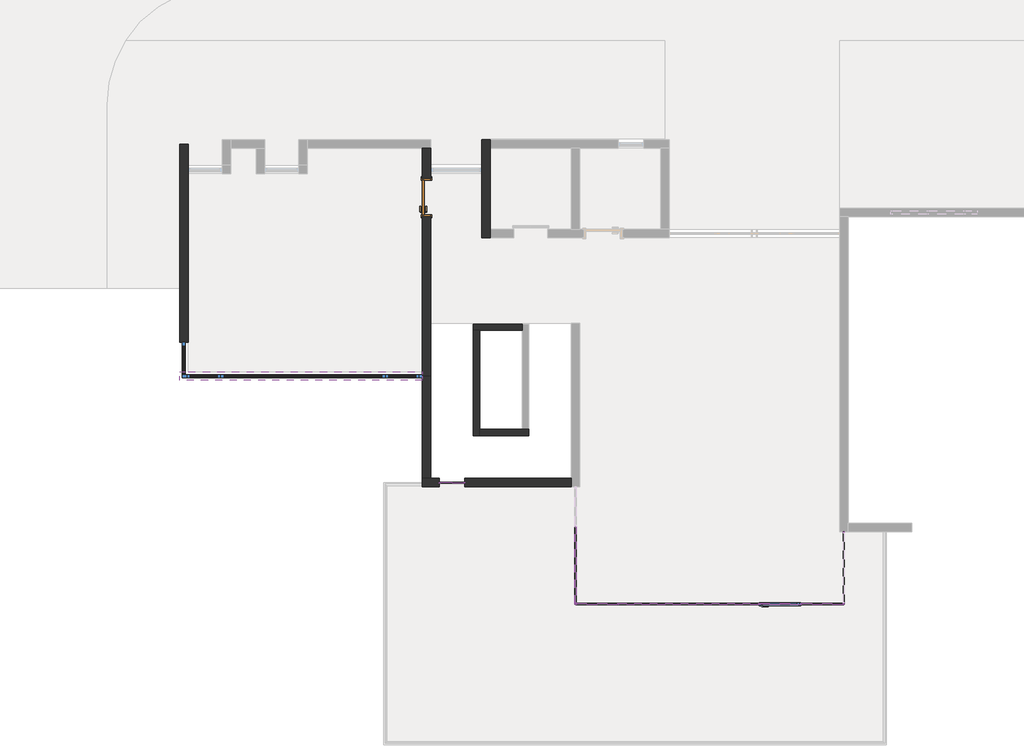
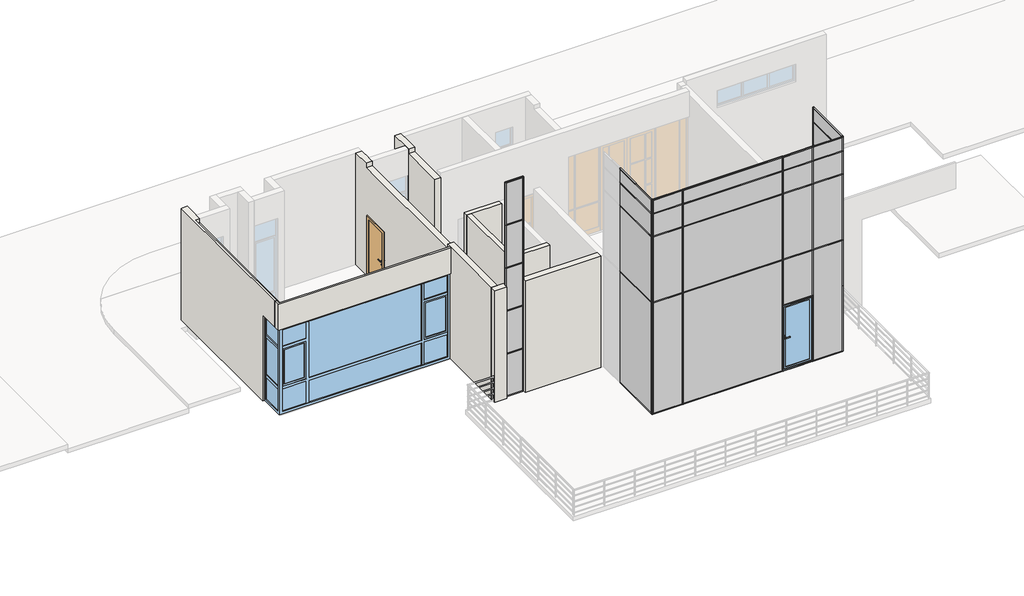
# One storey, part 1 of 4: 83 members, 29 plates, 9 walls, 2 windows, 1 door.
"""IFC4 building model written with IfcOpenShell, lengths in millimetres."""

from ifc_helpers import new_model, si_unit, origin, place, context, project, spatial, faceted_brep, transform, mapped, element, save
from components import m0921_482f5408, member_050b8304, member_364816fe, member_4fba57e3, member_90c32fe1, member_0448d2ee, member_3c3f359b, member_e371c03a, member_484f0d65, member_caf78da9, member_ed4e6baa, member_e58bfd49, member_f6acb2cb, member_d9064eb3, member_c456a22c, member_f9daae58, member_d54f5d39, member_ded72f51, member_83212f8f, member_9556eaea, member_e4ffa79e, member_633aa1a8, member_63391c1b, plate_989e9b30, plate_be0c214f, plate_3ad07298, plate_a678f7a2, plate_47d68db4, plate_28cd468d, plate_8697d8f9, plate_5c85ba46, plate_9a42f018, plate_45a283f2, plate_9503e3ad, plate_2229b9dc, plate_5c3fc420, plate_697b7dca, plate_b5b8d5f7, plate_45b696d9, plate_3115bb5f, plate_e9dabd4d, plate_3a9f7994, plate_476f0c40, plate_1dd8f47d, plate_72c2615a, window_97242802, zjc_08_56_30_6e2e087f

model = new_model("IFC4")

# Units and contexts
model_context = context("Model", 3, world=origin())
ifc_project = project(units=[si_unit("LENGTHUNIT", "METRE", prefix="MILLI")], contexts=[model_context])

# Site, building, storey
site = spatial("IfcSite", under=ifc_project)
building = spatial("IfcBuilding", under=site)
storey = spatial("IfcBuildingStorey", under=building, Name="首层", Elevation=0.0)

# Door
placement = place(None, origin())
m0921_shape = m0921_482f5408(model_context)
element("IfcDoor", 1, ObjectType="单嵌板木门 1 : M0921", at=placement, inside=storey, context=model_context, shape_type="MappedRepresentation", body=[
    mapped(m0921_shape, transform((-2290.9475695, -271.4172231, 0.0), x_axis=(0.0, 1.0, 0.0), y_axis=(-1.0, 0.0, 0.0), z_axis=(0.0, 0.0, 1.0))),
])

# Members
member_shape = member_050b8304(model_context)
element("IfcMember", 2, ObjectType="矩形竖梃 : 30mm 正方形", at=placement, inside=storey, context=model_context, shape_type="MappedRepresentation", body=[
    mapped(member_shape, transform((2209.0524305, -9821.4172231, 3900.0), x_axis=(1.0, 0.0, 0.0), y_axis=(0.0, -1.0, 0.0), z_axis=(0.0, 0.0, -1.0))),
])
element("IfcMember", 3, ObjectType="矩形竖梃 : 30mm 正方形", at=placement, inside=storey, context=model_context, shape_type="MappedRepresentation", body=[
    mapped(member_shape, transform((5509.0524305, -9821.4172231, 3900.0), x_axis=(1.0, 0.0, 0.0), y_axis=(0.0, -1.0, 0.0), z_axis=(0.0, 0.0, -1.0))),
])
element("IfcMember", 4, ObjectType="矩形竖梃 : 30mm 正方形", at=placement, inside=storey, context=model_context, shape_type="MappedRepresentation", body=[
    mapped(member_shape, transform((6509.0524305, -9821.4172231, 3900.0), x_axis=(1.0, 0.0, 0.0), y_axis=(0.0, -1.0, 0.0), z_axis=(0.0, 0.0, -1.0))),
])
member_2_shape = member_364816fe(model_context)
element("IfcMember", 5, ObjectType="矩形竖梃 : 30mm 正方形", at=placement, inside=storey, context=model_context, shape_type="MappedRepresentation", body=[
    mapped(member_2_shape, transform((7509.0524305, -9821.4172231, 3900.0), x_axis=(1.0, 0.0, 0.0), y_axis=(0.0, -1.0, 0.0), z_axis=(0.0, 0.0, -1.0))),
])
element("IfcMember", 6, ObjectType="矩形竖梃 : 30mm 正方形", at=placement, inside=storey, context=model_context, shape_type="MappedRepresentation", body=[
    mapped(member_2_shape, transform((1209.0524305, -9821.4172231, 3900.0), x_axis=(0.0, -1.0, 0.0), y_axis=(-1.0, 0.0, 0.0), z_axis=(0.0, 0.0, -1.0))),
])
element("IfcMember", 7, ObjectType="矩形竖梃 : 30mm 正方形", at=placement, inside=storey, context=model_context, shape_type="MappedRepresentation", body=[
    mapped(member_2_shape, transform((7509.0524305, -8121.4172231, 3900.0), x_axis=(0.0, 1.0, 0.0), y_axis=(1.0, 0.0, 0.0), z_axis=(0.0, 0.0, -1.0))),
])
element("IfcMember", 8, ObjectType="矩形竖梃 : 30mm 正方形", at=placement, inside=storey, context=model_context, shape_type="MappedRepresentation", body=[
    mapped(member_2_shape, transform((1209.0524305, -9821.4172231, 6200.0), x_axis=(-1.0, 0.0, 0.0), y_axis=(0.0, -1.0, 0.0), z_axis=(0.0, 0.0, 1.0))),
])
element("IfcMember", 9, ObjectType="矩形竖梃 : 30mm 正方形", at=placement, inside=storey, context=model_context, shape_type="MappedRepresentation", body=[
    mapped(member_2_shape, transform((7509.0524305, -9821.4172231, 6200.0), x_axis=(0.0, -1.0, 0.0), y_axis=(1.0, 0.0, 0.0), z_axis=(0.0, 0.0, 1.0))),
])
member_3_shape = member_4fba57e3(model_context)
element("IfcMember", 10, ObjectType="矩形竖梃 : 30mm 正方形", at=placement, inside=storey, context=model_context, shape_type="MappedRepresentation", body=[
    mapped(member_3_shape, transform((-1420.9475695, -6971.4172231, 7500.0), x_axis=(0.0, 0.0, 1.0), y_axis=(0.0, -1.0, 0.0), z_axis=(1.0, 0.0, 0.0))),
])
element("IfcMember", 11, ObjectType="矩形竖梃 : 30mm 正方形", at=placement, inside=storey, context=model_context, shape_type="MappedRepresentation", body=[
    mapped(member_3_shape, transform((-1960.9475695, -6971.4172231, 0.0), x_axis=(0.0, 0.0, -1.0), y_axis=(0.0, -1.0, 0.0), z_axis=(-1.0, 0.0, 0.0))),
])
member_4_shape = member_90c32fe1(model_context)
element("IfcMember", 12, ObjectType="矩形竖梃 : 30mm 正方形", at=placement, inside=storey, context=model_context, shape_type="MappedRepresentation", body=[
    mapped(member_4_shape, transform((-1420.9475695, -6971.4172231, 1500.0), x_axis=(0.0, 0.0, 1.0), y_axis=(0.0, -1.0, 0.0), z_axis=(1.0, 0.0, 0.0))),
])
element("IfcMember", 13, ObjectType="矩形竖梃 : 30mm 正方形", at=placement, inside=storey, context=model_context, shape_type="MappedRepresentation", body=[
    mapped(member_4_shape, transform((-1420.9475695, -6971.4172231, 3000.0), x_axis=(0.0, 0.0, 1.0), y_axis=(0.0, -1.0, 0.0), z_axis=(1.0, 0.0, 0.0))),
])
element("IfcMember", 14, ObjectType="矩形竖梃 : 30mm 正方形", at=placement, inside=storey, context=model_context, shape_type="MappedRepresentation", body=[
    mapped(member_4_shape, transform((-1420.9475695, -6971.4172231, 4500.0), x_axis=(0.0, 0.0, 1.0), y_axis=(0.0, -1.0, 0.0), z_axis=(1.0, 0.0, 0.0))),
])
element("IfcMember", 15, ObjectType="矩形竖梃 : 30mm 正方形", at=placement, inside=storey, context=model_context, shape_type="MappedRepresentation", body=[
    mapped(member_4_shape, transform((-1420.9475695, -6971.4172231, 6000.0), x_axis=(0.0, 0.0, 1.0), y_axis=(0.0, -1.0, 0.0), z_axis=(1.0, 0.0, 0.0))),
])
member_5_shape = member_0448d2ee(model_context)
element("IfcMember", 16, ObjectType="矩形竖梃 : 30mm 正方形", at=placement, inside=storey, context=model_context, shape_type="MappedRepresentation", body=[
    mapped(member_5_shape, transform((-1390.9475695, -6971.4172231, 0.0), x_axis=(1.0, 0.0, 0.0), y_axis=(0.0, -1.0, 0.0), z_axis=(0.0, 0.0, -1.0))),
])
element("IfcMember", 17, ObjectType="矩形竖梃 : 30mm 正方形", at=placement, inside=storey, context=model_context, shape_type="MappedRepresentation", body=[
    mapped(member_5_shape, transform((-1990.9475695, -6971.4172231, 1500.0), x_axis=(-1.0, 0.0, 0.0), y_axis=(0.0, -1.0, 0.0), z_axis=(0.0, 0.0, 1.0))),
])
element("IfcMember", 18, ObjectType="矩形竖梃 : 30mm 正方形", at=placement, inside=storey, context=model_context, shape_type="MappedRepresentation", body=[
    mapped(member_5_shape, transform((-1390.9475695, -6971.4172231, 1500.0), x_axis=(1.0, 0.0, 0.0), y_axis=(0.0, -1.0, 0.0), z_axis=(0.0, 0.0, -1.0))),
])
element("IfcMember", 19, ObjectType="矩形竖梃 : 30mm 正方形", at=placement, inside=storey, context=model_context, shape_type="MappedRepresentation", body=[
    mapped(member_5_shape, transform((-1390.9475695, -6971.4172231, 3000.0), x_axis=(1.0, 0.0, 0.0), y_axis=(0.0, -1.0, 0.0), z_axis=(0.0, 0.0, -1.0))),
])
element("IfcMember", 20, ObjectType="矩形竖梃 : 30mm 正方形", at=placement, inside=storey, context=model_context, shape_type="MappedRepresentation", body=[
    mapped(member_5_shape, transform((-1390.9475695, -6971.4172231, 4500.0), x_axis=(1.0, 0.0, 0.0), y_axis=(0.0, -1.0, 0.0), z_axis=(0.0, 0.0, -1.0))),
])
element("IfcMember", 21, ObjectType="矩形竖梃 : 30mm 正方形", at=placement, inside=storey, context=model_context, shape_type="MappedRepresentation", body=[
    mapped(member_5_shape, transform((-1990.9475695, -6971.4172231, 3000.0), x_axis=(-1.0, 0.0, 0.0), y_axis=(0.0, -1.0, 0.0), z_axis=(0.0, 0.0, 1.0))),
])
element("IfcMember", 22, ObjectType="矩形竖梃 : 30mm 正方形", at=placement, inside=storey, context=model_context, shape_type="MappedRepresentation", body=[
    mapped(member_5_shape, transform((-1990.9475695, -6971.4172231, 4500.0), x_axis=(-1.0, 0.0, 0.0), y_axis=(0.0, -1.0, 0.0), z_axis=(0.0, 0.0, 1.0))),
])
element("IfcMember", 23, ObjectType="矩形竖梃 : 30mm 正方形", at=placement, inside=storey, context=model_context, shape_type="MappedRepresentation", body=[
    mapped(member_5_shape, transform((-1990.9475695, -6971.4172231, 6000.0), x_axis=(-1.0, 0.0, 0.0), y_axis=(0.0, -1.0, 0.0), z_axis=(0.0, 0.0, 1.0))),
])
element("IfcMember", 24, ObjectType="矩形竖梃 : 30mm 正方形", at=placement, inside=storey, context=model_context, shape_type="MappedRepresentation", body=[
    mapped(member_5_shape, transform((-1990.9475695, -6971.4172231, 7500.0), x_axis=(-1.0, 0.0, 0.0), y_axis=(0.0, -1.0, 0.0), z_axis=(0.0, 0.0, 1.0))),
])
element("IfcMember", 25, ObjectType="矩形竖梃 : 30mm 正方形", at=placement, inside=storey, context=model_context, shape_type="MappedRepresentation", body=[
    mapped(member_5_shape, transform((-1390.9475695, -6971.4172231, 6000.0), x_axis=(1.0, 0.0, 0.0), y_axis=(0.0, -1.0, 0.0), z_axis=(0.0, 0.0, -1.0))),
])
member_6_shape = member_3c3f359b(model_context)
element("IfcMember", 26, ObjectType="矩形竖梃 : 30mm 正方形", at=placement, inside=storey, context=model_context, shape_type="MappedRepresentation", body=[
    mapped(member_6_shape, transform((7509.0524305, -8151.4172231, 7500.0), x_axis=(0.0, 0.0, 1.0), y_axis=(1.0, 0.0, 0.0), z_axis=(0.0, 1.0, 0.0))),
])
element("IfcMember", 27, ObjectType="矩形竖梃 : 30mm 正方形", at=placement, inside=storey, context=model_context, shape_type="MappedRepresentation", body=[
    mapped(member_6_shape, transform((7509.0524305, -9791.4172231, 0.0), x_axis=(0.0, 0.0, -1.0), y_axis=(1.0, 0.0, 0.0), z_axis=(0.0, -1.0, 0.0))),
])
member_7_shape = member_e371c03a(model_context)
element("IfcMember", 28, ObjectType="矩形竖梃 : 30mm 正方形", at=placement, inside=storey, context=model_context, shape_type="MappedRepresentation", body=[
    mapped(member_7_shape, transform((1239.0524305, -9821.4172231, 0.0), x_axis=(0.0, 0.0, -1.0), y_axis=(0.0, -1.0, 0.0), z_axis=(-1.0, 0.0, 0.0))),
])
element("IfcMember", 29, ObjectType="矩形竖梃 : 30mm 正方形", at=placement, inside=storey, context=model_context, shape_type="MappedRepresentation", body=[
    mapped(member_7_shape, transform((6524.0524305, -9821.4172231, 0.0), x_axis=(0.0, 0.0, -1.0), y_axis=(0.0, -1.0, 0.0), z_axis=(-1.0, 0.0, 0.0))),
])
element("IfcMember", 30, ObjectType="矩形竖梃 : 30mm 正方形", at=placement, inside=storey, context=model_context, shape_type="MappedRepresentation", body=[
    mapped(member_7_shape, transform((7479.0524305, -9821.4172231, 7500.0), x_axis=(0.0, 0.0, 1.0), y_axis=(0.0, -1.0, 0.0), z_axis=(1.0, 0.0, 0.0))),
])
element("IfcMember", 31, ObjectType="矩形竖梃 : 30mm 正方形", at=placement, inside=storey, context=model_context, shape_type="MappedRepresentation", body=[
    mapped(member_7_shape, transform((2194.0524305, -9821.4172231, 7500.0), x_axis=(0.0, 0.0, 1.0), y_axis=(0.0, -1.0, 0.0), z_axis=(1.0, 0.0, 0.0))),
])
member_8_shape = member_484f0d65(model_context)
element("IfcMember", 32, ObjectType="矩形竖梃 : 30mm 正方形", at=placement, inside=storey, context=model_context, shape_type="MappedRepresentation", body=[
    mapped(member_8_shape, transform((2224.0524305, -9821.4172231, 0.0), x_axis=(0.0, 0.0, -1.0), y_axis=(0.0, -1.0, 0.0), z_axis=(-1.0, 0.0, 0.0))),
])
element("IfcMember", 33, ObjectType="矩形竖梃 : 30mm 正方形", at=placement, inside=storey, context=model_context, shape_type="MappedRepresentation", body=[
    mapped(member_8_shape, transform((5494.0524305, -9821.4172231, 7500.0), x_axis=(0.0, 0.0, 1.0), y_axis=(0.0, -1.0, 0.0), z_axis=(1.0, 0.0, 0.0))),
])
member_9_shape = member_caf78da9(model_context)
element("IfcMember", 34, ObjectType="矩形竖梃 : 30mm 正方形", at=placement, inside=storey, context=model_context, shape_type="MappedRepresentation", body=[
    mapped(member_9_shape, transform((5524.0524305, -9821.4172231, 0.0), x_axis=(0.0, 0.0, -1.0), y_axis=(0.0, -1.0, 0.0), z_axis=(-1.0, 0.0, 0.0))),
])
element("IfcMember", 35, ObjectType="矩形竖梃 : 30mm 正方形", at=placement, inside=storey, context=model_context, shape_type="MappedRepresentation", body=[
    mapped(member_9_shape, transform((6494.0524305, -9821.4172231, 7500.0), x_axis=(0.0, 0.0, 1.0), y_axis=(0.0, -1.0, 0.0), z_axis=(1.0, 0.0, 0.0))),
])
member_10_shape = member_ed4e6baa(model_context)
element("IfcMember", 36, ObjectType="矩形竖梃 : 30mm 正方形", at=placement, inside=storey, context=model_context, shape_type="MappedRepresentation", body=[
    mapped(member_10_shape, transform((2194.0524305, -9821.4172231, 7000.0), x_axis=(0.0, 0.0, 1.0), y_axis=(0.0, -1.0, 0.0), z_axis=(1.0, 0.0, 0.0))),
])
element("IfcMember", 37, ObjectType="矩形竖梃 : 30mm 正方形", at=placement, inside=storey, context=model_context, shape_type="MappedRepresentation", body=[
    mapped(member_10_shape, transform((7479.0524305, -9821.4172231, 7000.0), x_axis=(0.0, 0.0, 1.0), y_axis=(0.0, -1.0, 0.0), z_axis=(1.0, 0.0, 0.0))),
])
element("IfcMember", 38, ObjectType="矩形竖梃 : 30mm 正方形", at=placement, inside=storey, context=model_context, shape_type="MappedRepresentation", body=[
    mapped(member_10_shape, transform((2194.0524305, -9821.4172231, 6200.0), x_axis=(0.0, 0.0, 1.0), y_axis=(0.0, -1.0, 0.0), z_axis=(1.0, 0.0, 0.0))),
])
element("IfcMember", 39, ObjectType="矩形竖梃 : 30mm 正方形", at=placement, inside=storey, context=model_context, shape_type="MappedRepresentation", body=[
    mapped(member_10_shape, transform((7479.0524305, -9821.4172231, 6200.0), x_axis=(0.0, 0.0, 1.0), y_axis=(0.0, -1.0, 0.0), z_axis=(1.0, 0.0, 0.0))),
])
element("IfcMember", 40, ObjectType="矩形竖梃 : 30mm 正方形", at=placement, inside=storey, context=model_context, shape_type="MappedRepresentation", body=[
    mapped(member_10_shape, transform((2194.0524305, -9821.4172231, 3900.0), x_axis=(0.0, 0.0, 1.0), y_axis=(0.0, -1.0, 0.0), z_axis=(1.0, 0.0, 0.0))),
])
element("IfcMember", 41, ObjectType="矩形竖梃 : 30mm 正方形", at=placement, inside=storey, context=model_context, shape_type="MappedRepresentation", body=[
    mapped(member_10_shape, transform((7479.0524305, -9821.4172231, 3900.0), x_axis=(0.0, 0.0, 1.0), y_axis=(0.0, -1.0, 0.0), z_axis=(1.0, 0.0, 0.0))),
])
member_11_shape = member_e58bfd49(model_context)
element("IfcMember", 42, ObjectType="矩形竖梃 : 30mm 正方形", at=placement, inside=storey, context=model_context, shape_type="MappedRepresentation", body=[
    mapped(member_11_shape, transform((5494.0524305, -9821.4172231, 7000.0), x_axis=(0.0, 0.0, 1.0), y_axis=(0.0, -1.0, 0.0), z_axis=(1.0, 0.0, 0.0))),
])
element("IfcMember", 43, ObjectType="矩形竖梃 : 30mm 正方形", at=placement, inside=storey, context=model_context, shape_type="MappedRepresentation", body=[
    mapped(member_11_shape, transform((5494.0524305, -9821.4172231, 6200.0), x_axis=(0.0, 0.0, 1.0), y_axis=(0.0, -1.0, 0.0), z_axis=(1.0, 0.0, 0.0))),
])
element("IfcMember", 44, ObjectType="矩形竖梃 : 30mm 正方形", at=placement, inside=storey, context=model_context, shape_type="MappedRepresentation", body=[
    mapped(member_11_shape, transform((5494.0524305, -9821.4172231, 3900.0), x_axis=(0.0, 0.0, 1.0), y_axis=(0.0, -1.0, 0.0), z_axis=(1.0, 0.0, 0.0))),
])
member_12_shape = member_f6acb2cb(model_context)
element("IfcMember", 45, ObjectType="矩形竖梃 : 30mm 正方形", at=placement, inside=storey, context=model_context, shape_type="MappedRepresentation", body=[
    mapped(member_12_shape, transform((6494.0524305, -9821.4172231, 7000.0), x_axis=(0.0, 0.0, 1.0), y_axis=(0.0, -1.0, 0.0), z_axis=(1.0, 0.0, 0.0))),
])
element("IfcMember", 46, ObjectType="矩形竖梃 : 30mm 正方形", at=placement, inside=storey, context=model_context, shape_type="MappedRepresentation", body=[
    mapped(member_12_shape, transform((6494.0524305, -9821.4172231, 6200.0), x_axis=(0.0, 0.0, 1.0), y_axis=(0.0, -1.0, 0.0), z_axis=(1.0, 0.0, 0.0))),
])
element("IfcMember", 47, ObjectType="矩形竖梃 : 30mm 正方形", at=placement, inside=storey, context=model_context, shape_type="MappedRepresentation", body=[
    mapped(member_12_shape, transform((6494.0524305, -9821.4172231, 3900.0), x_axis=(0.0, 0.0, 1.0), y_axis=(0.0, -1.0, 0.0), z_axis=(1.0, 0.0, 0.0))),
])
element("IfcMember", 48, ObjectType="矩形竖梃 : 30mm 正方形", at=placement, inside=storey, context=model_context, shape_type="MappedRepresentation", body=[
    mapped(member_12_shape, transform((6494.0524305, -9821.4172231, 2300.0), x_axis=(0.0, 0.0, 1.0), y_axis=(0.0, -1.0, 0.0), z_axis=(1.0, 0.0, 0.0))),
])
member_13_shape = member_d9064eb3(model_context)
element("IfcMember", 49, ObjectType="矩形竖梃 : 30mm 正方形", at=placement, inside=storey, context=model_context, shape_type="MappedRepresentation", body=[
    mapped(member_13_shape, transform((2209.0524305, -9821.4172231, 7000.0), x_axis=(1.0, 0.0, 0.0), y_axis=(0.0, -1.0, 0.0), z_axis=(0.0, 0.0, -1.0))),
])
element("IfcMember", 50, ObjectType="矩形竖梃 : 30mm 正方形", at=placement, inside=storey, context=model_context, shape_type="MappedRepresentation", body=[
    mapped(member_13_shape, transform((5509.0524305, -9821.4172231, 7000.0), x_axis=(1.0, 0.0, 0.0), y_axis=(0.0, -1.0, 0.0), z_axis=(0.0, 0.0, -1.0))),
])
element("IfcMember", 51, ObjectType="矩形竖梃 : 30mm 正方形", at=placement, inside=storey, context=model_context, shape_type="MappedRepresentation", body=[
    mapped(member_13_shape, transform((6509.0524305, -9821.4172231, 7000.0), x_axis=(1.0, 0.0, 0.0), y_axis=(0.0, -1.0, 0.0), z_axis=(0.0, 0.0, -1.0))),
])
member_14_shape = member_c456a22c(model_context)
element("IfcMember", 52, ObjectType="矩形竖梃 : 30mm 正方形", at=placement, inside=storey, context=model_context, shape_type="MappedRepresentation", body=[
    mapped(member_14_shape, transform((7509.0524305, -9821.4172231, 7500.0), x_axis=(0.0, -1.0, 0.0), y_axis=(1.0, 0.0, 0.0), z_axis=(0.0, 0.0, 1.0))),
])
element("IfcMember", 53, ObjectType="矩形竖梃 : 30mm 正方形", at=placement, inside=storey, context=model_context, shape_type="MappedRepresentation", body=[
    mapped(member_14_shape, transform((1209.0524305, -9821.4172231, 7500.0), x_axis=(-1.0, 0.0, 0.0), y_axis=(0.0, -1.0, 0.0), z_axis=(0.0, 0.0, 1.0))),
])
element("IfcMember", 54, ObjectType="矩形竖梃 : 30mm 正方形", at=placement, inside=storey, context=model_context, shape_type="MappedRepresentation", body=[
    mapped(member_14_shape, transform((7509.0524305, -9821.4172231, 7000.0), x_axis=(1.0, 0.0, 0.0), y_axis=(0.0, -1.0, 0.0), z_axis=(0.0, 0.0, -1.0))),
])
element("IfcMember", 55, ObjectType="矩形竖梃 : 30mm 正方形", at=placement, inside=storey, context=model_context, shape_type="MappedRepresentation", body=[
    mapped(member_14_shape, transform((1209.0524305, -9821.4172231, 7000.0), x_axis=(0.0, -1.0, 0.0), y_axis=(-1.0, 0.0, 0.0), z_axis=(0.0, 0.0, -1.0))),
])
element("IfcMember", 56, ObjectType="矩形竖梃 : 30mm 正方形", at=placement, inside=storey, context=model_context, shape_type="MappedRepresentation", body=[
    mapped(member_14_shape, transform((7509.0524305, -8121.4172231, 7000.0), x_axis=(0.0, 1.0, 0.0), y_axis=(1.0, 0.0, 0.0), z_axis=(0.0, 0.0, -1.0))),
])
member_15_shape = member_f9daae58(model_context)
element("IfcMember", 57, ObjectType="矩形竖梃 : 30mm 正方形", at=placement, inside=storey, context=model_context, shape_type="MappedRepresentation", body=[
    mapped(member_15_shape, transform((2209.0524305, -9821.4172231, 6200.0), x_axis=(1.0, 0.0, 0.0), y_axis=(0.0, -1.0, 0.0), z_axis=(0.0, 0.0, -1.0))),
])
element("IfcMember", 58, ObjectType="矩形竖梃 : 30mm 正方形", at=placement, inside=storey, context=model_context, shape_type="MappedRepresentation", body=[
    mapped(member_15_shape, transform((5509.0524305, -9821.4172231, 6200.0), x_axis=(1.0, 0.0, 0.0), y_axis=(0.0, -1.0, 0.0), z_axis=(0.0, 0.0, -1.0))),
])
element("IfcMember", 59, ObjectType="矩形竖梃 : 30mm 正方形", at=placement, inside=storey, context=model_context, shape_type="MappedRepresentation", body=[
    mapped(member_15_shape, transform((6509.0524305, -9821.4172231, 6200.0), x_axis=(1.0, 0.0, 0.0), y_axis=(0.0, -1.0, 0.0), z_axis=(0.0, 0.0, -1.0))),
])
member_16_shape = member_d54f5d39(model_context)
element("IfcMember", 60, ObjectType="矩形竖梃 : 30mm 正方形", at=placement, inside=storey, context=model_context, shape_type="MappedRepresentation", body=[
    mapped(member_16_shape, transform((1209.0524305, -9821.4172231, 7000.0), x_axis=(-1.0, 0.0, 0.0), y_axis=(0.0, -1.0, 0.0), z_axis=(0.0, 0.0, 1.0))),
])
element("IfcMember", 61, ObjectType="矩形竖梃 : 30mm 正方形", at=placement, inside=storey, context=model_context, shape_type="MappedRepresentation", body=[
    mapped(member_16_shape, transform((7509.0524305, -9821.4172231, 7000.0), x_axis=(0.0, -1.0, 0.0), y_axis=(1.0, 0.0, 0.0), z_axis=(0.0, 0.0, 1.0))),
])
element("IfcMember", 62, ObjectType="矩形竖梃 : 30mm 正方形", at=placement, inside=storey, context=model_context, shape_type="MappedRepresentation", body=[
    mapped(member_16_shape, transform((7509.0524305, -9821.4172231, 6200.0), x_axis=(1.0, 0.0, 0.0), y_axis=(0.0, -1.0, 0.0), z_axis=(0.0, 0.0, -1.0))),
])
element("IfcMember", 63, ObjectType="矩形竖梃 : 30mm 正方形", at=placement, inside=storey, context=model_context, shape_type="MappedRepresentation", body=[
    mapped(member_16_shape, transform((1209.0524305, -9821.4172231, 6200.0), x_axis=(0.0, -1.0, 0.0), y_axis=(-1.0, 0.0, 0.0), z_axis=(0.0, 0.0, -1.0))),
])
element("IfcMember", 64, ObjectType="矩形竖梃 : 30mm 正方形", at=placement, inside=storey, context=model_context, shape_type="MappedRepresentation", body=[
    mapped(member_16_shape, transform((7509.0524305, -8121.4172231, 6200.0), x_axis=(0.0, 1.0, 0.0), y_axis=(1.0, 0.0, 0.0), z_axis=(0.0, 0.0, -1.0))),
])
element("IfcMember", 65, ObjectType="矩形竖梃 : 30mm 正方形", at=placement, inside=storey, context=model_context, shape_type="MappedRepresentation", body=[
    mapped(member_shape, transform((5509.0524305, -9821.4172231, 0.0), x_axis=(1.0, 0.0, 0.0), y_axis=(0.0, -1.0, 0.0), z_axis=(0.0, 0.0, -1.0))),
])
element("IfcMember", 66, ObjectType="矩形竖梃 : 30mm 正方形", at=placement, inside=storey, context=model_context, shape_type="MappedRepresentation", body=[
    mapped(member_shape, transform((6509.0524305, -9821.4172231, 0.0), x_axis=(1.0, 0.0, 0.0), y_axis=(0.0, -1.0, 0.0), z_axis=(0.0, 0.0, -1.0))),
])
member_17_shape = member_ded72f51(model_context)
element("IfcMember", 67, ObjectType="矩形竖梃 : 30mm 正方形", at=placement, inside=storey, context=model_context, shape_type="MappedRepresentation", body=[
    mapped(member_17_shape, transform((5509.0524305, -9821.4172231, 2300.0), x_axis=(1.0, 0.0, 0.0), y_axis=(0.0, -1.0, 0.0), z_axis=(0.0, 0.0, -1.0))),
])
element("IfcMember", 68, ObjectType="矩形竖梃 : 30mm 正方形", at=placement, inside=storey, context=model_context, shape_type="MappedRepresentation", body=[
    mapped(member_17_shape, transform((6509.0524305, -9821.4172231, 2300.0), x_axis=(1.0, 0.0, 0.0), y_axis=(0.0, -1.0, 0.0), z_axis=(0.0, 0.0, -1.0))),
])
element("IfcMember", 69, ObjectType="矩形竖梃 : 30mm 正方形", at=placement, inside=storey, context=model_context, shape_type="MappedRepresentation", body=[
    mapped(member_shape, transform((2209.0524305, -9821.4172231, 0.0), x_axis=(1.0, 0.0, 0.0), y_axis=(0.0, -1.0, 0.0), z_axis=(0.0, 0.0, -1.0))),
])
element("IfcMember", 70, ObjectType="矩形竖梃 : 30mm 正方形", at=placement, inside=storey, context=model_context, shape_type="MappedRepresentation", body=[
    mapped(member_17_shape, transform((2209.0524305, -9821.4172231, 2300.0), x_axis=(1.0, 0.0, 0.0), y_axis=(0.0, -1.0, 0.0), z_axis=(0.0, 0.0, -1.0))),
])
element("IfcMember", 71, ObjectType="矩形竖梃 : 30mm 正方形", at=placement, inside=storey, context=model_context, shape_type="MappedRepresentation", body=[
    mapped(member_2_shape, transform((7509.0524305, -9821.4172231, 0.0), x_axis=(1.0, 0.0, 0.0), y_axis=(0.0, -1.0, 0.0), z_axis=(0.0, 0.0, -1.0))),
])
member_18_shape = member_83212f8f(model_context)
element("IfcMember", 72, ObjectType="矩形竖梃 : 30mm 正方形", at=placement, inside=storey, context=model_context, shape_type="MappedRepresentation", body=[
    mapped(member_18_shape, transform((1209.0524305, -9821.4172231, 3900.0), x_axis=(-1.0, 0.0, 0.0), y_axis=(0.0, -1.0, 0.0), z_axis=(0.0, 0.0, 1.0))),
])
element("IfcMember", 73, ObjectType="矩形竖梃 : 30mm 正方形", at=placement, inside=storey, context=model_context, shape_type="MappedRepresentation", body=[
    mapped(member_18_shape, transform((7509.0524305, -9821.4172231, 2300.0), x_axis=(1.0, 0.0, 0.0), y_axis=(0.0, -1.0, 0.0), z_axis=(0.0, 0.0, -1.0))),
])
element("IfcMember", 74, ObjectType="矩形竖梃 : 30mm 正方形", at=placement, inside=storey, context=model_context, shape_type="MappedRepresentation", body=[
    mapped(member_2_shape, transform((1209.0524305, -9821.4172231, 2300.0), x_axis=(-1.0, 0.0, 0.0), y_axis=(0.0, -1.0, 0.0), z_axis=(0.0, 0.0, 1.0))),
])
member_19_shape = member_9556eaea(model_context)
element("IfcMember", 75, ObjectType="矩形竖梃 : 30mm 正方形", at=placement, inside=storey, context=model_context, shape_type="MappedRepresentation", body=[
    mapped(member_19_shape, transform((1209.0524305, -9791.4172231, 7500.0), x_axis=(0.0, 0.0, 1.0), y_axis=(-1.0, 0.0, 0.0), z_axis=(0.0, -1.0, 0.0))),
])
element("IfcMember", 76, ObjectType="矩形竖梃 : 30mm 正方形", at=placement, inside=storey, context=model_context, shape_type="MappedRepresentation", body=[
    mapped(member_19_shape, transform((1209.0524305, -8003.0838897, 0.0), x_axis=(0.0, 0.0, -1.0), y_axis=(-1.0, 0.0, 0.0), z_axis=(0.0, 1.0, 0.0))),
])
member_20_shape = member_e4ffa79e(model_context)
element("IfcMember", 77, ObjectType="矩形竖梃 : 30mm 正方形", at=placement, inside=storey, context=model_context, shape_type="MappedRepresentation", body=[
    mapped(member_20_shape, transform((1209.0524305, -9791.4172231, 3900.0), x_axis=(0.0, 0.0, 1.0), y_axis=(-1.0, 0.0, 0.0), z_axis=(0.0, -1.0, 0.0))),
])
element("IfcMember", 78, ObjectType="矩形竖梃 : 30mm 正方形", at=placement, inside=storey, context=model_context, shape_type="MappedRepresentation", body=[
    mapped(member_20_shape, transform((1209.0524305, -9791.4172231, 6200.0), x_axis=(0.0, 0.0, 1.0), y_axis=(-1.0, 0.0, 0.0), z_axis=(0.0, -1.0, 0.0))),
])
element("IfcMember", 79, ObjectType="矩形竖梃 : 30mm 正方形", at=placement, inside=storey, context=model_context, shape_type="MappedRepresentation", body=[
    mapped(member_20_shape, transform((1209.0524305, -9791.4172231, 7000.0), x_axis=(0.0, 0.0, 1.0), y_axis=(-1.0, 0.0, 0.0), z_axis=(0.0, -1.0, 0.0))),
])
member_21_shape = member_633aa1a8(model_context)
element("IfcMember", 80, ObjectType="矩形竖梃 : 30mm 正方形", at=placement, inside=storey, context=model_context, shape_type="MappedRepresentation", body=[
    mapped(member_21_shape, transform((1209.0524305, -9821.4172231, 0.0), x_axis=(0.0, -1.0, 0.0), y_axis=(-1.0, 0.0, 0.0), z_axis=(0.0, 0.0, -1.0))),
])
element("IfcMember", 81, ObjectType="矩形竖梃 : 30mm 正方形", at=placement, inside=storey, context=model_context, shape_type="MappedRepresentation", body=[
    mapped(member_21_shape, transform((7509.0524305, -8121.4172231, 0.0), x_axis=(0.0, 1.0, 0.0), y_axis=(1.0, 0.0, 0.0), z_axis=(0.0, 0.0, -1.0))),
])
element("IfcMember", 82, ObjectType="矩形竖梃 : 30mm 正方形", at=placement, inside=storey, context=model_context, shape_type="MappedRepresentation", body=[
    mapped(member_21_shape, transform((7509.0524305, -9821.4172231, 3900.0), x_axis=(0.0, -1.0, 0.0), y_axis=(1.0, 0.0, 0.0), z_axis=(0.0, 0.0, 1.0))),
])
member_22_shape = member_63391c1b(model_context)
element("IfcMember", 83, ObjectType="矩形竖梃 : 30mm 正方形", at=placement, inside=storey, context=model_context, shape_type="MappedRepresentation", body=[
    mapped(member_22_shape, transform((7509.0524305, -8151.4172231, 7000.0), x_axis=(0.0, 0.0, 1.0), y_axis=(1.0, 0.0, 0.0), z_axis=(0.0, 1.0, 0.0))),
])
element("IfcMember", 84, ObjectType="矩形竖梃 : 30mm 正方形", at=placement, inside=storey, context=model_context, shape_type="MappedRepresentation", body=[
    mapped(member_22_shape, transform((7509.0524305, -8151.4172231, 6200.0), x_axis=(0.0, 0.0, 1.0), y_axis=(1.0, 0.0, 0.0), z_axis=(0.0, 1.0, 0.0))),
])

# Plates
plate_shape = plate_989e9b30(model_context)
element("IfcPlate", 85, ObjectType="系统嵌板 : 玻璃", at=placement, inside=storey, context=model_context, shape_type="MappedRepresentation", body=[
    mapped(plate_shape, transform((-1690.9475695, -6971.4172231, 30.0), x_axis=(1.0, 0.0, 0.0), y_axis=(0.0, 1.0, 0.0), z_axis=(0.0, 0.0, 1.0))),
])
element("IfcPlate", 86, ObjectType="系统嵌板 : 玻璃", at=placement, inside=storey, context=model_context, shape_type="MappedRepresentation", body=[
    mapped(plate_shape, transform((-1690.9475695, -6971.4172231, 6015.0), x_axis=(1.0, 0.0, 0.0), y_axis=(0.0, 1.0, 0.0), z_axis=(0.0, 0.0, 1.0))),
])
plate_2_shape = plate_be0c214f(model_context)
element("IfcPlate", 87, ObjectType="系统嵌板 : 玻璃", at=placement, inside=storey, context=model_context, shape_type="MappedRepresentation", body=[
    mapped(plate_2_shape, transform((-1690.9475695, -6971.4172231, 1515.0), x_axis=(1.0, 0.0, 0.0), y_axis=(0.0, 1.0, 0.0), z_axis=(0.0, 0.0, 1.0))),
])
element("IfcPlate", 88, ObjectType="系统嵌板 : 玻璃", at=placement, inside=storey, context=model_context, shape_type="MappedRepresentation", body=[
    mapped(plate_2_shape, transform((-1690.9475695, -6971.4172231, 3015.0), x_axis=(1.0, 0.0, 0.0), y_axis=(0.0, 1.0, 0.0), z_axis=(0.0, 0.0, 1.0))),
])
element("IfcPlate", 89, ObjectType="系统嵌板 : 玻璃", at=placement, inside=storey, context=model_context, shape_type="MappedRepresentation", body=[
    mapped(plate_2_shape, transform((-1690.9475695, -6971.4172231, 4515.0), x_axis=(1.0, 0.0, 0.0), y_axis=(0.0, 1.0, 0.0), z_axis=(0.0, 0.0, 1.0))),
])
plate_3_shape = plate_3ad07298(model_context)
element("IfcPlate", 90, ObjectType="系统嵌板 : 玻璃", at=placement, inside=storey, context=model_context, shape_type="MappedRepresentation", body=[
    mapped(plate_3_shape, transform((1716.5524305, -9821.4172231, 7015.0), x_axis=(1.0, 0.0, 0.0), y_axis=(0.0, 1.0, 0.0), z_axis=(0.0, 0.0, 1.0))),
])
element("IfcPlate", 91, ObjectType="系统嵌板 : 玻璃", at=placement, inside=storey, context=model_context, shape_type="MappedRepresentation", body=[
    mapped(plate_3_shape, transform((7001.5524305, -9821.4172231, 7015.0), x_axis=(1.0, 0.0, 0.0), y_axis=(0.0, 1.0, 0.0), z_axis=(0.0, 0.0, 1.0))),
])
plate_4_shape = plate_a678f7a2(model_context)
element("IfcPlate", 92, ObjectType="系统嵌板 : 玻璃", at=placement, inside=storey, context=model_context, shape_type="MappedRepresentation", body=[
    mapped(plate_4_shape, transform((3859.0524305, -9821.4172231, 7015.0), x_axis=(1.0, 0.0, 0.0), y_axis=(0.0, 1.0, 0.0), z_axis=(0.0, 0.0, 1.0))),
])
plate_5_shape = plate_47d68db4(model_context)
element("IfcPlate", 93, ObjectType="系统嵌板 : 玻璃", at=placement, inside=storey, context=model_context, shape_type="MappedRepresentation", body=[
    mapped(plate_5_shape, transform((6009.0524305, -9821.4172231, 7015.0), x_axis=(1.0, 0.0, 0.0), y_axis=(0.0, 1.0, 0.0), z_axis=(0.0, 0.0, 1.0))),
])
plate_6_shape = plate_28cd468d(model_context)
element("IfcPlate", 94, ObjectType="系统嵌板 : 玻璃", at=placement, inside=storey, context=model_context, shape_type="MappedRepresentation", body=[
    mapped(plate_6_shape, transform((1716.5524305, -9821.4172231, 6215.0), x_axis=(1.0, 0.0, 0.0), y_axis=(0.0, 1.0, 0.0), z_axis=(0.0, 0.0, 1.0))),
])
element("IfcPlate", 95, ObjectType="系统嵌板 : 玻璃", at=placement, inside=storey, context=model_context, shape_type="MappedRepresentation", body=[
    mapped(plate_6_shape, transform((7001.5524305, -9821.4172231, 6215.0), x_axis=(1.0, 0.0, 0.0), y_axis=(0.0, 1.0, 0.0), z_axis=(0.0, 0.0, 1.0))),
])
plate_7_shape = plate_8697d8f9(model_context)
element("IfcPlate", 96, ObjectType="系统嵌板 : 玻璃", at=placement, inside=storey, context=model_context, shape_type="MappedRepresentation", body=[
    mapped(plate_7_shape, transform((3859.0524305, -9821.4172231, 6215.0), x_axis=(1.0, 0.0, 0.0), y_axis=(0.0, 1.0, 0.0), z_axis=(0.0, 0.0, 1.0))),
])
plate_8_shape = plate_5c85ba46(model_context)
element("IfcPlate", 97, ObjectType="系统嵌板 : 玻璃", at=placement, inside=storey, context=model_context, shape_type="MappedRepresentation", body=[
    mapped(plate_8_shape, transform((6009.0524305, -9821.4172231, 6215.0), x_axis=(1.0, 0.0, 0.0), y_axis=(0.0, 1.0, 0.0), z_axis=(0.0, 0.0, 1.0))),
])
plate_9_shape = plate_9a42f018(model_context)
element("IfcPlate", 98, ObjectType="系统嵌板 : 玻璃", at=placement, inside=storey, context=model_context, shape_type="MappedRepresentation", body=[
    mapped(plate_9_shape, transform((1716.5524305, -9821.4172231, 3915.0), x_axis=(1.0, 0.0, 0.0), y_axis=(0.0, 1.0, 0.0), z_axis=(0.0, 0.0, 1.0))),
])
element("IfcPlate", 99, ObjectType="系统嵌板 : 玻璃", at=placement, inside=storey, context=model_context, shape_type="MappedRepresentation", body=[
    mapped(plate_9_shape, transform((7001.5524305, -9821.4172231, 3915.0), x_axis=(1.0, 0.0, 0.0), y_axis=(0.0, 1.0, 0.0), z_axis=(0.0, 0.0, 1.0))),
])
plate_10_shape = plate_45a283f2(model_context)
element("IfcPlate", 100, ObjectType="系统嵌板 : 玻璃", at=placement, inside=storey, context=model_context, shape_type="MappedRepresentation", body=[
    mapped(plate_10_shape, transform((3859.0524305, -9821.4172231, 3915.0), x_axis=(1.0, 0.0, 0.0), y_axis=(0.0, 1.0, 0.0), z_axis=(0.0, 0.0, 1.0))),
])
plate_11_shape = plate_9503e3ad(model_context)
element("IfcPlate", 101, ObjectType="系统嵌板 : 玻璃", at=placement, inside=storey, context=model_context, shape_type="MappedRepresentation", body=[
    mapped(plate_11_shape, transform((6009.0524305, -9821.4172231, 3915.0), x_axis=(1.0, 0.0, 0.0), y_axis=(0.0, 1.0, 0.0), z_axis=(0.0, 0.0, 1.0))),
])
plate_12_shape = plate_2229b9dc(model_context)
element("IfcPlate", 102, ObjectType="系统嵌板 : 玻璃", at=placement, inside=storey, context=model_context, shape_type="MappedRepresentation", body=[
    mapped(plate_12_shape, transform((6009.0524305, -9821.4172231, 2315.0), x_axis=(1.0, 0.0, 0.0), y_axis=(0.0, 1.0, 0.0), z_axis=(0.0, 0.0, 1.0))),
])
plate_13_shape = plate_5c3fc420(model_context)
element("IfcPlate", 103, ObjectType="系统嵌板 : 玻璃", at=placement, inside=storey, context=model_context, shape_type="MappedRepresentation", body=[
    mapped(plate_13_shape, transform((1716.5524305, -9821.4172231, 30.0), x_axis=(1.0, 0.0, 0.0), y_axis=(0.0, 1.0, 0.0), z_axis=(0.0, 0.0, 1.0))),
])
element("IfcPlate", 104, ObjectType="系统嵌板 : 玻璃", at=placement, inside=storey, context=model_context, shape_type="MappedRepresentation", body=[
    mapped(plate_13_shape, transform((7001.5524305, -9821.4172231, 30.0), x_axis=(1.0, 0.0, 0.0), y_axis=(0.0, 1.0, 0.0), z_axis=(0.0, 0.0, 1.0))),
])
plate_14_shape = plate_697b7dca(model_context)
element("IfcPlate", 105, ObjectType="系统嵌板 : 玻璃", at=placement, inside=storey, context=model_context, shape_type="MappedRepresentation", body=[
    mapped(plate_14_shape, transform((3859.0524305, -9821.4172231, 30.0), x_axis=(1.0, 0.0, 0.0), y_axis=(0.0, 1.0, 0.0), z_axis=(0.0, 0.0, 1.0))),
])
plate_15_shape = plate_b5b8d5f7(model_context)
element("IfcPlate", 106, ObjectType="系统嵌板 : 玻璃", at=placement, inside=storey, context=model_context, shape_type="MappedRepresentation", body=[
    mapped(plate_15_shape, transform((1209.0524305, -8897.2505564, 30.0), x_axis=(0.0, -1.0, 0.0), y_axis=(1.0, 0.0, 0.0), z_axis=(0.0, 0.0, 1.0))),
])
plate_16_shape = plate_45b696d9(model_context)
element("IfcPlate", 107, ObjectType="系统嵌板 : 玻璃", at=placement, inside=storey, context=model_context, shape_type="MappedRepresentation", body=[
    mapped(plate_16_shape, transform((1209.0524305, -8897.2505564, 3915.0), x_axis=(0.0, -1.0, 0.0), y_axis=(1.0, 0.0, 0.0), z_axis=(0.0, 0.0, 1.0))),
])
plate_17_shape = plate_3115bb5f(model_context)
element("IfcPlate", 108, ObjectType="系统嵌板 : 玻璃", at=placement, inside=storey, context=model_context, shape_type="MappedRepresentation", body=[
    mapped(plate_17_shape, transform((1209.0524305, -8897.2505564, 6215.0), x_axis=(0.0, -1.0, 0.0), y_axis=(1.0, 0.0, 0.0), z_axis=(0.0, 0.0, 1.0))),
])
plate_18_shape = plate_e9dabd4d(model_context)
element("IfcPlate", 109, ObjectType="系统嵌板 : 玻璃", at=placement, inside=storey, context=model_context, shape_type="MappedRepresentation", body=[
    mapped(plate_18_shape, transform((1209.0524305, -8897.2505564, 7015.0), x_axis=(0.0, -1.0, 0.0), y_axis=(1.0, 0.0, 0.0), z_axis=(0.0, 0.0, 1.0))),
])
plate_19_shape = plate_3a9f7994(model_context)
element("IfcPlate", 110, ObjectType="系统嵌板 : 玻璃", at=placement, inside=storey, context=model_context, shape_type="MappedRepresentation", body=[
    mapped(plate_19_shape, transform((7509.0524305, -8971.4172231, 7015.0), x_axis=(0.0, 1.0, 0.0), y_axis=(-1.0, 0.0, 0.0), z_axis=(0.0, 0.0, 1.0))),
])
plate_20_shape = plate_476f0c40(model_context)
element("IfcPlate", 111, ObjectType="系统嵌板 : 玻璃", at=placement, inside=storey, context=model_context, shape_type="MappedRepresentation", body=[
    mapped(plate_20_shape, transform((7509.0524305, -8971.4172231, 6215.0), x_axis=(0.0, 1.0, 0.0), y_axis=(-1.0, 0.0, 0.0), z_axis=(0.0, 0.0, 1.0))),
])
plate_21_shape = plate_1dd8f47d(model_context)
element("IfcPlate", 112, ObjectType="系统嵌板 : 玻璃", at=placement, inside=storey, context=model_context, shape_type="MappedRepresentation", body=[
    mapped(plate_21_shape, transform((7509.0524305, -8971.4172231, 30.0), x_axis=(0.0, 1.0, 0.0), y_axis=(-1.0, 0.0, 0.0), z_axis=(0.0, 0.0, 1.0))),
])
plate_22_shape = plate_72c2615a(model_context)
element("IfcPlate", 113, ObjectType="系统嵌板 : 玻璃", at=placement, inside=storey, context=model_context, shape_type="MappedRepresentation", body=[
    mapped(plate_22_shape, transform((7509.0524305, -8971.4172231, 3915.0), x_axis=(0.0, 1.0, 0.0), y_axis=(-1.0, 0.0, 0.0), z_axis=(0.0, 0.0, 1.0))),
])

# Walls
element("IfcWall", 114, ObjectType="外墙", at=placement, inside=storey, context=model_context, shape_type="Brep", body=[
    faceted_brep([(-2390.9475695, -6871.4172231, 0.0), (-2390.9475695, -6871.4172231, 3900.0), (-2190.9475695, -6871.4172231, 3900.0), (-1990.9475695, -6871.4172231, 3900.0), (-1990.9475695, -6871.4172231, 0.0), (-2190.9475695, -6871.4172231, 0.0), (-2390.9475695, -7071.4172231, 3900.0), (-2390.9475695, -7071.4172231, 0.0), (-1990.9475695, -7071.4172231, 0.0), (-1990.9475695, -7071.4172231, 3900.0)], [[[0, 1, 2, 3, 4, 5]], [[6, 7, 8, 9]], [[7, 0, 5, 4, 8]], [[1, 6, 9, 3, 2]], [[1, 0, 7, 6]], [[4, 3, 9, 8]]]),
    faceted_brep([(1109.0524305, -6871.4172231, 3900.0), (1109.0524305, -6871.4172231, 0.0), (-1390.9475695, -6871.4172231, 0.0), (-1390.9475695, -6871.4172231, 3900.0), (1109.0524305, -7071.4172231, 0.0), (1109.0524305, -7071.4172231, 3900.0), (-1390.9475695, -7071.4172231, 3900.0), (-1390.9475695, -7071.4172231, 0.0)], [[[0, 1, 2, 3]], [[4, 5, 6, 7]], [[1, 4, 7, 2]], [[5, 0, 3, 6]], [[1, 0, 5, 4]], [[3, 2, 7, 6]]]),
])
element("IfcWall", 115, ObjectType="外墙", at=placement, inside=storey, context=model_context, shape_type="Brep", body=[
    faceted_brep([(-2190.9475695, -6871.4172231, 0.0), (-2190.9475695, -4471.4172231, 0.0), (-2190.9475695, -4471.4172231, 3000.0), (-2190.9475695, -4371.4172231, 3000.0), (-2190.9475695, -4371.4172231, 3900.0), (-2190.9475695, -6871.4172231, 3900.0), (-2390.9475695, -6871.4172231, 0.0), (-2390.9475695, -6871.4172231, 3900.0), (-2390.9475695, -4571.4172231, 3900.0), (-2390.9475695, -4371.4172231, 3900.0), (-2390.9475695, -4371.4172231, 3000.0), (-2390.9475695, -4471.4172231, 3000.0), (-2390.9475695, -4471.4172231, 0.0)], [[[0, 1, 2, 3, 4, 5]], [[6, 7, 8, 9, 10, 11, 12]], [[1, 0, 6, 12]], [[5, 4, 9, 8, 7]], [[0, 5, 7, 6]], [[2, 1, 12, 11]], [[10, 3, 2, 11]], [[4, 3, 10, 9]]]),
])
element("IfcWall", 116, ObjectType="外墙", at=placement, inside=storey, context=model_context, shape_type="Brep", body=[
    faceted_brep([(-8090.9475695, -4371.4172231, 3000.0), (-8090.9475695, -4371.4172231, 3900.0), (-8030.9475695, -4371.4172231, 3900.0), (-8030.9475695, -4371.4172231, 3750.0), (-7890.9475695, -4371.4172231, 3750.0), (-2390.9475695, -4371.4172231, 3750.0), (-2390.9475695, -4371.4172231, 3000.0), (-7890.9475695, -4371.4172231, 3000.0), (-2390.9475695, -4571.4172231, 3900.0), (-8090.9475695, -4571.4172231, 3900.0), (-8090.9475695, -4571.4172231, 3000.0), (-2390.9475695, -4571.4172231, 3000.0), (-2390.9475695, -4471.4172231, 3000.0), (-2390.9475695, -4501.4172231, 3750.0), (-2390.9475695, -4501.4172231, 3900.0), (-8030.9475695, -4501.4172231, 3900.0), (-8030.9475695, -4501.4172231, 3750.0)], [[[0, 1, 2, 3, 4, 5, 6, 7]], [[8, 9, 10, 11]], [[8, 11, 12, 6, 5, 13, 14]], [[1, 0, 10, 9]], [[9, 8, 14, 15, 2, 1]], [[0, 7, 6, 12, 11, 10]], [[3, 16, 13, 5, 4]], [[16, 15, 14, 13]], [[15, 16, 3, 2]]]),
])
element("IfcWall", 117, ObjectType="外墙", at=placement, inside=storey, context=model_context, shape_type="Brep", body=[
    faceted_brep([(-7890.9475695, -3671.4172231, 0.0), (-7890.9475695, 278.5827769, 0.0), (-7890.9475695, 478.5827769, 0.0), (-7890.9475695, 978.5827769, 0.0), (-7890.9475695, 978.5827769, 3900.0), (-7890.9475695, 478.5827769, 3900.0), (-7890.9475695, 278.5827769, 3900.0), (-7890.9475695, 278.5827769, 3750.0), (-7890.9475695, -4371.4172231, 3750.0), (-7890.9475695, -4371.4172231, 3000.0), (-7890.9475695, -3671.4172231, 3000.0), (-8090.9475695, 978.5827769, 0.0), (-8090.9475695, -3671.4172231, 0.0), (-8090.9475695, -3671.4172231, 3000.0), (-8090.9475695, -4371.4172231, 3000.0), (-8090.9475695, -4371.4172231, 3900.0), (-8090.9475695, 978.5827769, 3900.0), (-8030.9475695, -4371.4172231, 3750.0), (-8030.9475695, -4371.4172231, 3900.0), (-8030.9475695, 278.5827769, 3900.0), (-8030.9475695, 278.5827769, 3750.0)], [[[0, 1, 2, 3, 4, 5, 6, 7, 8, 9, 10]], [[11, 12, 13, 14, 15, 16]], [[15, 14, 9, 8, 17, 18]], [[3, 2, 1, 0, 12, 11]], [[4, 3, 11, 16]], [[16, 15, 18, 19, 6, 5, 4]], [[10, 9, 14, 13]], [[0, 10, 13, 12]], [[20, 17, 8, 7]], [[19, 20, 7, 6]], [[20, 19, 18, 17]]]),
])
element("IfcWall", 118, ObjectType="外墙", at=placement, inside=storey, context=model_context, shape_type="Brep", body=[
    faceted_brep([(-2390.9475695, -4471.4172231, 0.0), (-2390.9475695, -4471.4172231, 3000.0), (-2390.9475695, -4371.4172231, 3000.0), (-2390.9475695, -4371.4172231, 3750.0), (-2390.9475695, 278.5827769, 3750.0), (-2390.9475695, 278.5827769, 3900.0), (-2390.9475695, 878.5827769, 3900.0), (-2390.9475695, 878.5827769, 3750.0), (-2390.9475695, 878.5827769, 0.0), (-2390.9475695, 178.5827769, 0.0), (-2390.9475695, 178.5827769, 2100.0), (-2390.9475695, -721.4172231, 2100.0), (-2390.9475695, -721.4172231, 0.0), (-2190.9475695, 878.5827769, 0.0), (-2190.9475695, 878.5827769, 3900.0), (-2190.9475695, 478.5827769, 3900.0), (-2190.9475695, 278.5827769, 3900.0), (-2190.9475695, 278.5827769, 3750.0), (-2190.9475695, -3221.4172231, 3750.0), (-2190.9475695, -4371.4172231, 3750.0), (-2190.9475695, -4371.4172231, 3000.0), (-2190.9475695, -4471.4172231, 3000.0), (-2190.9475695, -4471.4172231, 0.0), (-2190.9475695, -721.4172231, 0.0), (-2190.9475695, -721.4172231, 2100.0), (-2190.9475695, 178.5827769, 2100.0), (-2190.9475695, 178.5827769, 0.0), (-2190.9475695, 278.5827769, 0.0), (-2190.9475695, 478.5827769, 0.0)], [[[0, 1, 2, 3, 4, 5, 6, 7, 8, 9, 10, 11, 12]], [[13, 14, 15, 16, 17, 18, 19, 20, 21, 22, 23, 24, 25, 26, 27, 28]], [[8, 13, 28, 27, 26, 9]], [[22, 0, 12, 23]], [[14, 6, 5, 16, 15]], [[6, 14, 13, 8, 7]], [[0, 22, 21, 1]], [[2, 1, 21, 20]], [[2, 20, 19, 3]], [[17, 4, 3, 19, 18]], [[4, 17, 16, 5]], [[25, 10, 9, 26]], [[10, 25, 24, 11]], [[11, 24, 23, 12]]]),
])
element("IfcWall", 119, ObjectType="外墙", at=placement, inside=storey, context=model_context, shape_type="Brep", body=[
    faceted_brep([(-790.9475695, -1221.4172231, 0.0), (-790.9475695, -1021.4172231, 0.0), (-790.9475695, 878.5827769, 0.0), (-790.9475695, 1078.5827769, 0.0), (-790.9475695, 1078.5827769, 3900.0), (-790.9475695, 878.5827769, 3900.0), (-790.9475695, 278.5827769, 3900.0), (-790.9475695, 278.5827769, 3750.0), (-790.9475695, -1121.4172231, 3750.0), (-790.9475695, -1221.4172231, 3750.0), (-990.9475695, 1078.5827769, 3900.0), (-990.9475695, 1078.5827769, 0.0), (-990.9475695, 478.5827769, 0.0), (-990.9475695, 478.5827769, 3000.0), (-990.9475695, 278.5827769, 3000.0), (-990.9475695, 278.5827769, 0.0), (-990.9475695, -1221.4172231, 0.0), (-990.9475695, -1221.4172231, 3750.0), (-990.9475695, 278.5827769, 3750.0), (-990.9475695, 278.5827769, 3900.0), (-990.9475695, 478.5827769, 3900.0), (-988.2749545, 278.5827769, 0.0), (-988.2749545, 478.5827769, 0.0), (-988.2749545, 478.5827769, 3000.0), (-988.2749545, 278.5827769, 3000.0)], [[[0, 1, 2, 3, 4, 5, 6, 7, 8, 9]], [[10, 11, 12, 13, 14, 15, 16, 17, 18, 19, 20]], [[3, 2, 1, 0, 16, 15, 21, 22, 12, 11]], [[4, 10, 20, 19, 6, 5]], [[4, 3, 11, 10]], [[16, 0, 9, 17]], [[7, 18, 17, 9, 8]], [[18, 7, 6, 19]], [[22, 23, 13, 12]], [[24, 21, 15, 14]], [[23, 24, 14, 13]], [[23, 22, 21, 24]]]),
])
element("IfcWall", 120, ObjectType="内墙-楼梯间", at=placement, inside=storey, context=model_context, shape_type="Brep", body=[
    faceted_brep([(-1190.9475695, -3396.4172231, 0.0), (-1040.9475695, -3396.4172231, 0.0), (-40.9475695, -3396.4172231, 0.0), (-40.9475695, -3396.4172231, 3900.0), (-1040.9475695, -3396.4172231, 3900.0), (-1190.9475695, -3396.4172231, 3900.0), (-1190.9475695, -3246.4172231, 0.0), (-1190.9475695, -3246.4172231, 3900.0), (-40.9475695, -3246.4172231, 3900.0), (-40.9475695, -3246.4172231, 0.0)], [[[0, 1, 2, 3, 4, 5]], [[6, 7, 8, 9]], [[2, 1, 0, 6, 9]], [[5, 4, 3, 8, 7]], [[0, 5, 7, 6]], [[3, 2, 9, 8]]]),
])
element("IfcWall", 121, ObjectType="内墙-楼梯间", at=placement, inside=storey, context=model_context, shape_type="Brep", body=[
    faceted_brep([(-1040.9475695, -5871.4172231, 0.0), (-1040.9475695, -5721.4172231, 0.0), (-1040.9475695, -3396.4172231, 0.0), (-1040.9475695, -3396.4172231, 3900.0), (-1040.9475695, -5721.4172231, 3900.0), (-1040.9475695, -5871.4172231, 3900.0), (-1190.9475695, -5871.4172231, 0.0), (-1190.9475695, -5871.4172231, 3900.0), (-1190.9475695, -3396.4172231, 3900.0), (-1190.9475695, -3396.4172231, 0.0)], [[[0, 1, 2, 3, 4, 5]], [[6, 7, 8, 9]], [[2, 1, 0, 6, 9]], [[5, 4, 3, 8, 7]], [[0, 5, 7, 6]], [[3, 2, 9, 8]]]),
])
element("IfcWall", 122, ObjectType="内墙-楼梯间", at=placement, inside=storey, context=model_context, shape_type="Brep", body=[
    faceted_brep([(109.0524305, -5721.4172231, 0.0), (-40.9475695, -5721.4172231, 0.0), (-1040.9475695, -5721.4172231, 0.0), (-1040.9475695, -5721.4172231, 3900.0), (-40.9475695, -5721.4172231, 3900.0), (109.0524305, -5721.4172231, 3900.0), (109.0524305, -5871.4172231, 0.0), (109.0524305, -5871.4172231, 3900.0), (-1040.9475695, -5871.4172231, 3900.0), (-1040.9475695, -5871.4172231, 0.0)], [[[0, 1, 2, 3, 4, 5]], [[6, 7, 8, 9]], [[2, 1, 0, 6, 9]], [[5, 4, 3, 8, 7]], [[0, 5, 7, 6]], [[3, 2, 9, 8]]]),
])

# Windows
window_shape = window_97242802(model_context)
element("IfcWindow", 123, ObjectType="窗嵌板_50-70 系列单扇平开铝窗 : 70 系列", at=placement, inside=storey, context=model_context, shape_type="MappedRepresentation", body=[
    mapped(window_shape, transform((6009.0524305, -9821.4172231, 30.0), x_axis=(1.0, 0.0, 0.0), y_axis=(0.0, 1.0, 0.0), z_axis=(0.0, 0.0, 1.0))),
])
zjc_08_56_30_shape = zjc_08_56_30_6e2e087f(model_context)
element("IfcWindow", 124, ObjectType="转角窗 安荣伟 : ZJC(08+56)30", at=placement, inside=storey, context=model_context, shape_type="MappedRepresentation", body=[
    mapped(zjc_08_56_30_shape, transform((-7990.9475695, -4471.4172231, 0.0), x_axis=(-1.0, 0.0, 0.0), y_axis=(0.0, -1.0, 0.0), z_axis=(0.0, 0.0, 1.0))),
])

save(model, "model.ifc")
